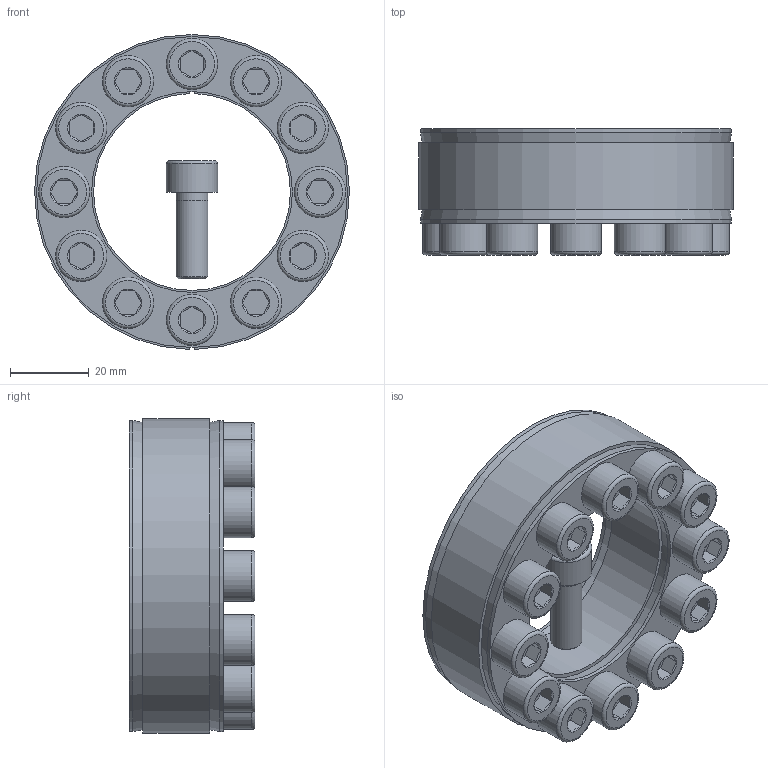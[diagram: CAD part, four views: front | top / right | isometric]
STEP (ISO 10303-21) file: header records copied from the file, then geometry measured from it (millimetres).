
FILE_DESCRIPTION( ( 'Unknown' ), '1' );
FILE_NAME( 'C:/Dokumente und Einstellungen/Sven/Desktop/homepage/cad - homepage/KBS40/KBS 40 - 50 x 80.stp', 'Unknown', ( 'Unknown' ), ( 'Unknown' ), 'XStep 1.0', 'Unknown', ' ' );
FILE_SCHEMA( ( 'automotive_design' ) );
Length unit declared in the file: millimetre
Products named in the file (14): Assem1; KBS 40 50x80; ISO 4762 M8x22; ISO 4762 M8x22-oa0; ISO 4762 M8x22-oa1; ISO 4762 M8x22-oa2; ISO 4762 M8x22-oa3; ISO 4762 M8x22-oa4; ISO 4762 M8x22-oa5; ISO 4762 M8x22-oa6; ISO 4762 M8x22-oa7; ISO 4762 M8x22-oa8; ISO 4762 M8x22-oa9; ISO 4762 M8x22-oa10
Bounding box: 80 x 32 x 79.99 mm (x, y, z)
Volume: 162883.7 mm3; surface area: 74410.1 mm2
Topology: 26 solids, 26 shells, 684 faces, 1268 edges, 732 vertices
Faces by surface type: plane 328, cone 176, cylinder 132, torus 48
Full cylindrical faces by diameter (mm): 7 x24, 8 x72, 13 x24, 51 x4, 79 x4
Entity records: 8451 total; most frequent: CARTESIAN_POINT 1752, DIRECTION 1392, ORIENTED_EDGE 1008, AXIS2_PLACEMENT_3D 604, EDGE_LOOP 520, EDGE_CURVE 504, FACE_OUTER_BOUND 430, ADVANCED_FACE 342
